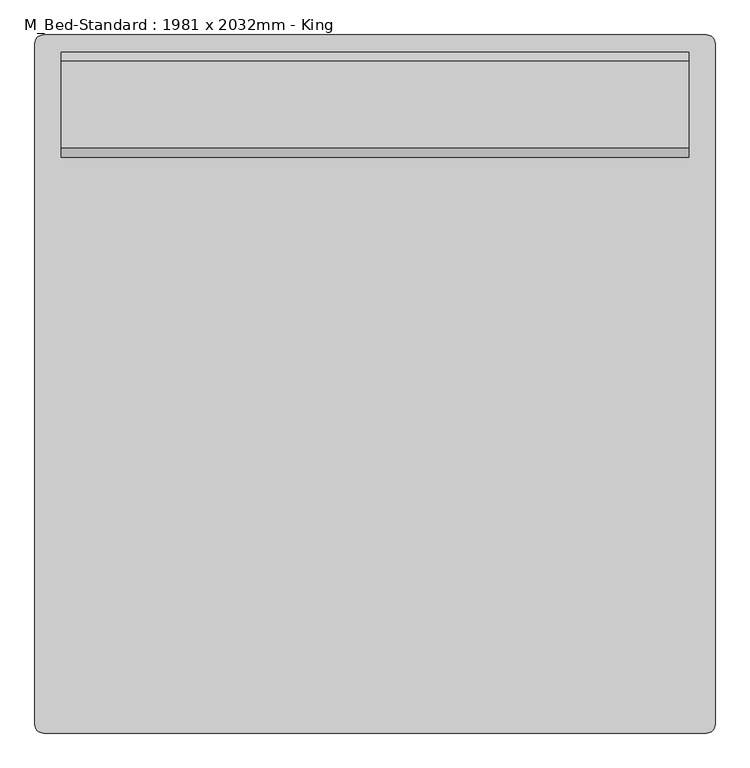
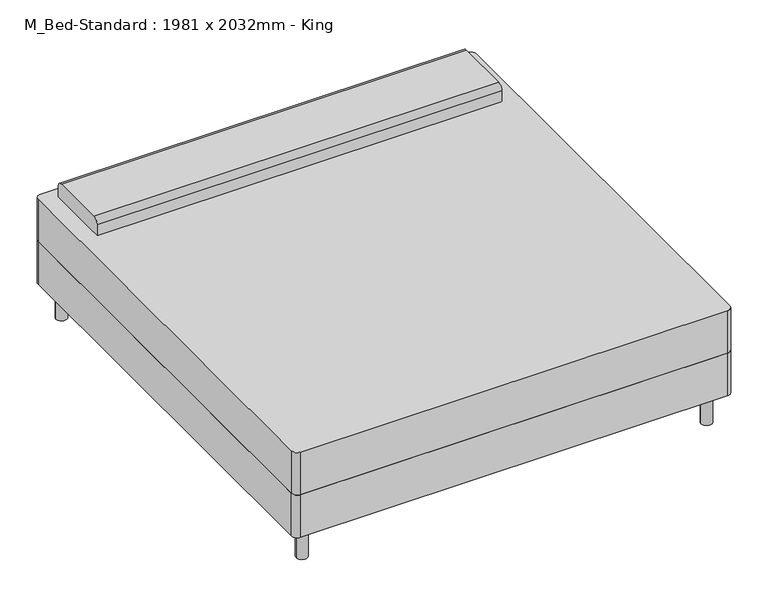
"""IFC4 building model written with IfcOpenShell, lengths in millimetres: furniture geometry, M_Bed-Standard : 1981 x 2032mm - King."""

import ifcopenshell
import ifcopenshell.guid

model = None  # the IFC model being written
_history = None  # IfcOwnerHistory: only IFC2X3 demands one
_inside = {}  # id of a spatial element -> (the spatial element, [elements in it])
_under = {}  # id of a project, library or spatial element -> (it, [spatial elements below it])
_declared = {}  # id of a project -> (the project, [libraries it declares])
_typed = {}  # id of a type object -> (the type object, [elements of that type])
_made_of = {}  # id of a material, layer set ... -> (it, [elements and type objects made of it])


def new_model(schema):
    """Start an empty IFC model of exactly this schema.

    Asked for "IFC4X3", IfcOpenShell would pick the latest addendum, in which some entities
    have other attributes; the version numbers below select the first issue.
    IFC2X3 requires an IfcOwnerHistory on every rooted entity: one is made here for all.
    """
    global model, _history
    if schema == "IFC4X3":
        model = ifcopenshell.file(schema_version=(4, 3, 0, 0))
    else:
        model = ifcopenshell.file(schema=schema)
    _inside.clear()
    _under.clear()
    _declared.clear()
    _typed.clear()
    _made_of.clear()
    _history = None
    if model.schema == "IFC2X3":
        org = make("IfcOrganization", Name="unknown")
        user = make(
            "IfcPersonAndOrganization",
            ThePerson=make("IfcPerson", FamilyName="unknown"),
            TheOrganization=org,
        )
        app = make(
            "IfcApplication",
            ApplicationDeveloper=org,
            Version="unknown",
            ApplicationFullName="unknown",
            ApplicationIdentifier="unknown",
        )
        _history = make(
            "IfcOwnerHistory",
            OwningUser=user,
            OwningApplication=app,
            ChangeAction="ADDED",
            CreationDate=0,
        )
    return model


def make(cls, **values):
    """One entity of the class cls with the attributes given. An attribute that is None is left unset."""
    return model.create_entity(
        cls, **{name: value for name, value in values.items() if value is not None}
    )


def rooted(cls, **values):
    """An entity with a GlobalId (a new one), such as an element, a storey or a relation."""
    return make(cls, GlobalId=ifcopenshell.guid.new(), OwnerHistory=_history, **values)


def si_unit(unit_type, name, prefix=None):
    """IfcSIUnit, for example si_unit("LENGTHUNIT", "METRE", prefix="MILLI")."""
    return make("IfcSIUnit", UnitType=unit_type, Prefix=prefix, Name=name)


def assignment(units):
    """IfcUnitAssignment: the units of a project."""
    return None if units is None else make("IfcUnitAssignment", Units=units)


def point(xyz):
    """IfcCartesianPoint."""
    return None if xyz is None else make("IfcCartesianPoint", Coordinates=xyz)


def direction(xyz):
    """IfcDirection."""
    return None if xyz is None else make("IfcDirection", DirectionRatios=xyz)


def frame(location, z_axis=None, x_axis=None):
    """IfcAxis2Placement3D, a coordinate frame: its origin and axes. An axis left out is left unset."""
    return make(
        "IfcAxis2Placement3D",
        Location=point(location),
        Axis=direction(z_axis),
        RefDirection=direction(x_axis),
    )


def frame_2d(location, x_axis=None):
    """IfcAxis2Placement2D, a coordinate frame in the plane: its origin and x axis."""
    return make(
        "IfcAxis2Placement2D", Location=point(location), RefDirection=direction(x_axis)
    )


def origin():
    """The frame at (0, 0, 0) with its axes left unset."""
    return frame((0.0, 0.0, 0.0))


def origin_with_axes():
    """The frame at (0, 0, 0) with the z axis (0, 0, 1) and the x axis (1, 0, 0) written out."""
    return frame((0.0, 0.0, 0.0), z_axis=(0.0, 0.0, 1.0), x_axis=(1.0, 0.0, 0.0))


def place(relative_to, where):
    """IfcLocalPlacement: puts the frame where relative to a parent placement (None: the world)."""
    return make(
        "IfcLocalPlacement", PlacementRelTo=relative_to, RelativePlacement=where
    )


def context(
    kind, dimensions, precision=None, world=None, true_north=None, identifier=None
):
    """IfcGeometricRepresentationContext, for example the 3D "Model" context."""
    return make(
        "IfcGeometricRepresentationContext",
        ContextIdentifier=identifier,
        ContextType=kind,
        CoordinateSpaceDimension=dimensions,
        Precision=precision,
        WorldCoordinateSystem=world,
        TrueNorth=true_north,
    )


def project(units=None, contexts=None):
    """IfcProject with its units and contexts."""
    return rooted(
        "IfcProject",
        Name="project",
        RepresentationContexts=contexts,
        UnitsInContext=assignment(units),
    )


def spatial(cls, under=None, at=None, **own):
    """A site, building, storey or space (cls), placed at a placement, below another one or the project."""
    s = rooted(cls, ObjectPlacement=at, **own)
    if under is not None:
        _under.setdefault(under.id(), (under, []))[1].append(s)
    return s


def polyline(points):
    """IfcPolyline through the points."""
    return make("IfcPolyline", Points=[point(p) for p in points])


def circle_curve(where, radius):
    """IfcCircle in the frame where."""
    return make("IfcCircle", Position=where, Radius=radius)


def trimmed(basis, trim1, trim2, sense, master):
    """IfcTrimmedCurve: the piece of a basis curve between two trims."""
    return make(
        "IfcTrimmedCurve",
        BasisCurve=basis,
        Trim1=trim1,
        Trim2=trim2,
        SenseAgreement=sense,
        MasterRepresentation=master,
    )


def segment(curve, same_sense, transition):
    """IfcCompositeCurveSegment."""
    return make(
        "IfcCompositeCurveSegment",
        Transition=transition,
        SameSense=same_sense,
        ParentCurve=curve,
    )


def composite_curve(segments, self_intersect=None):
    """IfcCompositeCurve: segments joined end to end."""
    return make("IfcCompositeCurve", Segments=segments, SelfIntersect=self_intersect)


def outline(outer, holes=None, kind="AREA"):
    """IfcArbitraryClosedProfileDef: a profile drawn as a closed curve; with holes, ...WithVoids."""
    if holes is None:
        return make("IfcArbitraryClosedProfileDef", ProfileType=kind, OuterCurve=outer)
    return make(
        "IfcArbitraryProfileDefWithVoids",
        ProfileType=kind,
        OuterCurve=outer,
        InnerCurves=holes,
    )


def extrude(swept, where, along, depth):
    """IfcExtrudedAreaSolid: the profile swept, set in the frame where, extruded along a direction by depth."""
    return make(
        "IfcExtrudedAreaSolid",
        SweptArea=swept,
        Position=where,
        ExtrudedDirection=direction(along),
        Depth=depth,
    )


def shape(context_of_items, identifier, shape_type, items):
    """IfcShapeRepresentation: the items that make up one representation, for example the "Body"."""
    return make(
        "IfcShapeRepresentation",
        ContextOfItems=context_of_items,
        RepresentationIdentifier=identifier,
        RepresentationType=shape_type,
        Items=items,
    )


def source(mapping_origin, context_of_items, identifier, shape_type, items):
    """IfcRepresentationMap: a shape defined once, which mapped items show again and again."""
    return make(
        "IfcRepresentationMap",
        MappingOrigin=mapping_origin,
        MappedRepresentation=shape(context_of_items, identifier, shape_type, items),
    )


def transform(
    local_origin,
    x_axis=None,
    y_axis=None,
    z_axis=None,
    scale=None,
    scale2=None,
    scale3=None,
    uniform=True,
):
    """IfcCartesianTransformationOperator3D, or its non-uniform kind. x_axis, y_axis, z_axis: its Axis1, 2, 3."""
    if uniform:
        return make(
            "IfcCartesianTransformationOperator3D",
            Axis1=direction(x_axis),
            Axis2=direction(y_axis),
            LocalOrigin=point(local_origin),
            Scale=scale,
            Axis3=direction(z_axis),
        )
    return make(
        "IfcCartesianTransformationOperator3DnonUniform",
        Axis1=direction(x_axis),
        Axis2=direction(y_axis),
        LocalOrigin=point(local_origin),
        Scale=scale,
        Axis3=direction(z_axis),
        Scale2=scale2,
        Scale3=scale3,
    )


def mapped(mapping_source, mapping_target):
    """IfcMappedItem: shows the shape of a source again, moved by a transform."""
    return make(
        "IfcMappedItem", MappingSource=mapping_source, MappingTarget=mapping_target
    )


def made_of(thing, what):
    """Note that an element or type object is made of a material, layer set ...; save() writes the relation."""
    if what is not None:
        _made_of.setdefault(what.id(), (what, []))[1].append(thing)
    return thing


def element(
    cls,
    number,
    at=None,
    inside=None,
    cuts=None,
    type_object=None,
    material=None,
    context=None,
    identifier="Body",
    shape_type=None,
    held_by="IfcProductDefinitionShape",
    body=None,
    shapes=None,
    **own,
):
    """One element of the class cls, such as IfcWall. Its Tag is "e" and its number.

    at: its placement. inside: the storey or other place that contains it. cuts: it is an
    opening in that element (IfcRelVoidsElement). A single representation is given by context,
    identifier, shape_type and body (its items); several are given by shapes. held_by: the class
    of the entity that holds the representations. save() writes the other relations.
    """
    e = rooted(cls, Tag="e%d" % number, ObjectPlacement=at, **own)
    if body is not None:
        shapes = [shape(context, identifier, shape_type, body)]
    if shapes is not None:
        e.Representation = make(held_by, Representations=shapes)
    if inside is not None:
        _inside.setdefault(inside.id(), (inside, []))[1].append(e)
    if cuts is not None:
        rooted(
            "IfcRelVoidsElement", RelatingBuildingElement=cuts, RelatedOpeningElement=e
        )
    if type_object is not None:
        _typed.setdefault(type_object.id(), (type_object, []))[1].append(e)
    return made_of(e, material)


def aggregate(whole, parts):
    """IfcRelAggregates: a whole, such as a stair, and the parts it consists of."""
    return rooted("IfcRelAggregates", RelatingObject=whole, RelatedObjects=parts)


def save(model, path):
    """Write the relations noted so far, then the file.

    IfcRelAggregates (storeys below a building ...), IfcRelContainedInSpatialStructure (elements
    in a storey), IfcRelDefinesByType, IfcRelAssociatesMaterial and IfcRelDeclares: one each for
    every whole, place, type object, material and project.
    """
    for whole, parts in _under.values():
        aggregate(whole, parts)
    for where, things in _inside.values():
        rooted(
            "IfcRelContainedInSpatialStructure",
            RelatedElements=things,
            RelatingStructure=where,
        )
    for kind, things in _typed.values():
        rooted("IfcRelDefinesByType", RelatedObjects=things, RelatingType=kind)
    for what, things in _made_of.values():
        rooted("IfcRelAssociatesMaterial", RelatedObjects=things, RelatingMaterial=what)
    for by, libraries in _declared.values():
        rooted("IfcRelDeclares", RelatingContext=by, RelatedDefinitions=libraries)
    model.write(path)


def m_bed_standard_1981_x_2032mm_king_79a78f5c(model_context):
    return source(origin(), model_context, "Body", "SweptSolid", [
        extrude(outline(composite_curve([segment(polyline([(-719.0114754, -1036.195082), (-719.0114754, 945.004918)]), True, "CONTINUOUS"), segment(trimmed(circle_curve(frame_2d((-693.6114754, 945.004918)), 25.4), [point((-719.0114754, 945.004918))], [point((-693.6114754, 970.404918))], False, "CARTESIAN"), True, "CONTINUOUS"), segment(polyline([(-693.6114754, 970.404918), (1236.5885246, 970.404918)]), True, "CONTINUOUS"), segment(trimmed(circle_curve(frame_2d((1236.5885246, 945.004918)), 25.4), [point((1236.5885246, 970.404918))], [point((1261.9885246, 945.004918))], False, "CARTESIAN"), True, "CONTINUOUS"), segment(polyline([(1261.9885246, 945.004918), (1261.9885246, -1036.195082)]), True, "CONTINUOUS"), segment(trimmed(circle_curve(frame_2d((1236.5885246, -1036.195082)), 25.4), [point((1261.9885246, -1036.195082))], [point((1236.5885246, -1061.595082))], False, "CARTESIAN"), True, "CONTINUOUS"), segment(polyline([(1236.5885246, -1061.595082), (-693.6114754, -1061.595082)]), True, "CONTINUOUS"), segment(trimmed(circle_curve(frame_2d((-693.6114754, -1036.195082)), 25.4), [point((-693.6114754, -1061.595082))], [point((-719.0114754, -1036.195082))], False, "CARTESIAN"), True, "CONTINUOUS")], self_intersect=False)), frame((0.0, 0.0, 152.4), z_axis=(0.0, 0.0, 1.0), x_axis=(1.0, 0.0, 0.0)), (0.0, 0.0, 1.0), 203.2),
        extrude(outline(composite_curve([segment(polyline([(614.804918, 558.8), (614.804918, 609.6)]), True, "CONTINUOUS"), segment(trimmed(circle_curve(frame_2d((640.204918, 609.6)), 25.4), [point((614.804918, 609.6))], [point((640.204918, 635.0))], False, "CARTESIAN"), True, "CONTINUOUS"), segment(polyline([(640.204918, 635.0), (894.204918, 635.0)]), True, "CONTINUOUS"), segment(trimmed(circle_curve(frame_2d((894.204918, 609.6)), 25.4), [point((894.204918, 635.0))], [point((919.604918, 609.6))], False, "CARTESIAN"), True, "CONTINUOUS"), segment(polyline([(919.604918, 609.6), (919.604918, 558.8), (614.804918, 558.8)]), True, "CONTINUOUS")], self_intersect=False)), frame((-642.8114754, 0.0, 0.0), z_axis=(1.0, 0.0, 0.0), x_axis=(0.0, 1.0, 0.0)), (0.0, 0.0, 1.0), 1828.6),
        extrude(outline(composite_curve([segment(trimmed(circle_curve(frame_2d((-642.8114754, 894.204918)), 25.4), [point((-668.2114754, 894.204918))], [point((-617.4114754, 894.204918))], False, "CARTESIAN"), True, "CONTINUOUS"), segment(trimmed(circle_curve(frame_2d((-642.8114754, 894.204918)), 25.4), [point((-617.4114754, 894.204918))], [point((-668.2114754, 894.204918))], False, "CARTESIAN"), True, "CONTINUOUS")], self_intersect=False)), origin_with_axes(), (0.0, 0.0, 1.0), 152.4),
        extrude(outline(composite_curve([segment(trimmed(circle_curve(frame_2d((1185.7885246, 894.204918)), 25.4), [point((1160.3885246, 894.204918))], [point((1211.1885246, 894.204918))], False, "CARTESIAN"), True, "CONTINUOUS"), segment(trimmed(circle_curve(frame_2d((1185.7885246, 894.204918)), 25.4), [point((1211.1885246, 894.204918))], [point((1160.3885246, 894.204918))], False, "CARTESIAN"), True, "CONTINUOUS")], self_intersect=False)), origin_with_axes(), (0.0, 0.0, 1.0), 152.4),
        extrude(outline(composite_curve([segment(trimmed(circle_curve(frame_2d((1185.7885246, -985.395082)), 25.4), [point((1160.3885246, -985.395082))], [point((1211.1885246, -985.395082))], False, "CARTESIAN"), True, "CONTINUOUS"), segment(trimmed(circle_curve(frame_2d((1185.7885246, -985.395082)), 25.4), [point((1211.1885246, -985.395082))], [point((1160.3885246, -985.395082))], False, "CARTESIAN"), True, "CONTINUOUS")], self_intersect=False)), origin_with_axes(), (0.0, 0.0, 1.0), 152.4),
        extrude(outline(composite_curve([segment(trimmed(circle_curve(frame_2d((-642.8114754, -985.395082)), 25.4), [point((-668.2114754, -985.395082))], [point((-617.4114754, -985.395082))], False, "CARTESIAN"), True, "CONTINUOUS"), segment(trimmed(circle_curve(frame_2d((-642.8114754, -985.395082)), 25.4), [point((-617.4114754, -985.395082))], [point((-668.2114754, -985.395082))], False, "CARTESIAN"), True, "CONTINUOUS")], self_intersect=False)), origin_with_axes(), (0.0, 0.0, 1.0), 152.4),
        extrude(outline(composite_curve([segment(polyline([(-693.6114754, 970.404918), (1236.5885246, 970.404918)]), True, "CONTINUOUS"), segment(trimmed(circle_curve(frame_2d((1236.5885246, 945.004918)), 25.4), [point((1236.5885246, 970.404918))], [point((1261.9885246, 945.004918))], False, "CARTESIAN"), True, "CONTINUOUS"), segment(polyline([(1261.9885246, 945.004918), (1261.9885246, -1036.195082)]), True, "CONTINUOUS"), segment(trimmed(circle_curve(frame_2d((1236.5885246, -1036.195082)), 25.4), [point((1261.9885246, -1036.195082))], [point((1236.5885246, -1061.595082))], False, "CARTESIAN"), True, "CONTINUOUS"), segment(polyline([(1236.5885246, -1061.595082), (-693.6114754, -1061.595082)]), True, "CONTINUOUS"), segment(trimmed(circle_curve(frame_2d((-693.6114754, -1036.195082)), 25.4), [point((-693.6114754, -1061.595082))], [point((-719.0114754, -1036.195082))], False, "CARTESIAN"), True, "CONTINUOUS"), segment(polyline([(-719.0114754, -1036.195082), (-719.0114754, 945.004918)]), True, "CONTINUOUS"), segment(trimmed(circle_curve(frame_2d((-693.6114754, 945.004918)), 25.4), [point((-719.0114754, 945.004918))], [point((-693.6114754, 970.404918))], False, "CARTESIAN"), True, "CONTINUOUS")], self_intersect=False)), frame((0.0, 0.0, 355.6), z_axis=(0.0, 0.0, 1.0), x_axis=(1.0, 0.0, 0.0)), (0.0, 0.0, 1.0), 203.2),
    ])


if __name__ == "__main__":
    model = new_model("IFC4")
    model_context = context("Model", 3, world=origin())
    ifc_project = project(units=[si_unit("LENGTHUNIT", "METRE", prefix="MILLI")], contexts=[model_context])
    site = spatial("IfcSite", under=ifc_project)
    building = spatial("IfcBuilding", under=site)
    placement = place(None, origin())
    m_bed_standard_1981_x_2032mm_king_shape = m_bed_standard_1981_x_2032mm_king_79a78f5c(model_context)
    element("IfcFurniture", 1, ObjectType="M_Bed-Standard : 1981 x 2032mm - King", at=placement, inside=building, context=model_context, shape_type="MappedRepresentation", body=[
        mapped(m_bed_standard_1981_x_2032mm_king_shape, transform((0.0, 0.0, 0.0), x_axis=(1.0, 0.0, 0.0), y_axis=(0.0, 1.0, 0.0), z_axis=(0.0, 0.0, 1.0))),
    ])
    save(model, "model.ifc")
